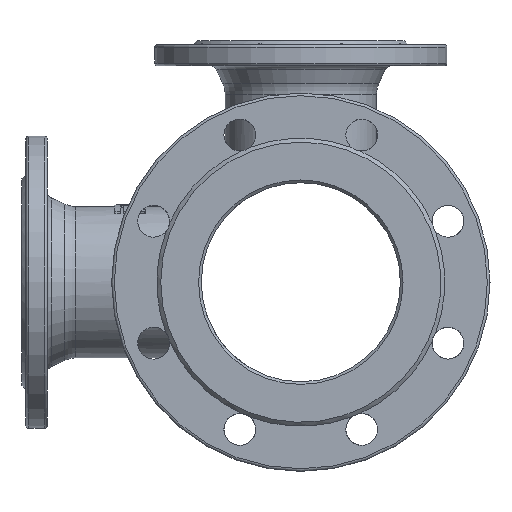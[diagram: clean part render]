
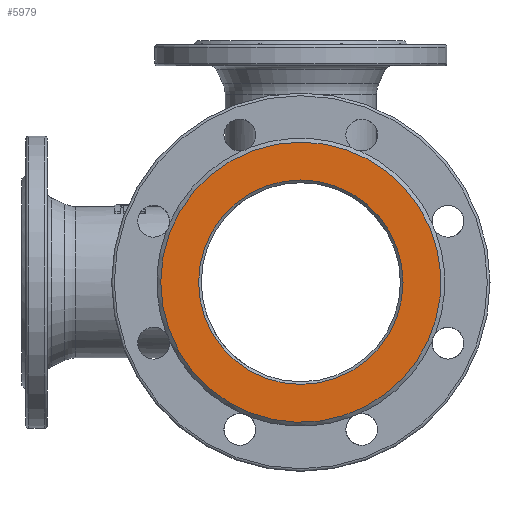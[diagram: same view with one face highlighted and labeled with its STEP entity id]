
A CAD part, left-side view. The second image highlights one B-rep face of the part: STEP entity #5979.
In plain terms, the highlighted planar face has unit normal (-1, 0, 0).
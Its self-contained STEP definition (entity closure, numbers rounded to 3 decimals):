
#728 = AXIS2_PLACEMENT_3D ( 'NONE', #3998, #3999, #4000 ) ;
#3998 = CARTESIAN_POINT ( 'NONE',  ( -220., 0., 0. ) ) ;
#3999 = DIRECTION ( 'NONE',  ( -1., 0., 0. ) ) ;
#4000 = DIRECTION ( 'NONE',  ( 0., 0., 1. ) ) ;
#4256 = CARTESIAN_POINT ( 'NONE',  ( -220., 0., -77. ) ) ;
#4265 = CARTESIAN_POINT ( 'NONE',  ( -220., 0., 105.5 ) ) ;
#4352 = ORIENTED_EDGE ( 'NONE', *, *, #5219, .T. ) ;
#4353 = ORIENTED_EDGE ( 'NONE', *, *, #9135, .T. ) ;
#4497 = EDGE_LOOP ( 'NONE', ( #4352 ) ) ;
#4518 = EDGE_LOOP ( 'NONE', ( #4353 ) ) ;
#4816 = CIRCLE ( 'NONE', #8704, 77. ) ;
#5219 = EDGE_CURVE ( 'NONE', #5876, #5876, #4816, .T. ) ;
#5283 = AXIS2_PLACEMENT_3D ( 'NONE', #7216, #7219, #7220 ) ;
#5506 = FACE_BOUND ( 'NONE', #4497, .T. ) ;
#5516 = FACE_OUTER_BOUND ( 'NONE', #4518, .T. ) ;
#5792 = CIRCLE ( 'NONE', #728, 105.5 ) ;
#5876 = VERTEX_POINT ( 'NONE', #4256 ) ;
#5885 = VERTEX_POINT ( 'NONE', #4265 ) ;
#5979 = ADVANCED_FACE ( 'NONE', ( #5506, #5516 ), #7217, .F. ) ;
#7216 = CARTESIAN_POINT ( 'NONE',  ( -220., 75., 0. ) ) ;
#7217 = PLANE ( 'NONE',  #5283 ) ;
#7219 = DIRECTION ( 'NONE',  ( 1., 0., 0. ) ) ;
#7220 = DIRECTION ( 'NONE',  ( 0., 0., -1. ) ) ;
#8523 = CARTESIAN_POINT ( 'NONE',  ( -220., 0., 0. ) ) ;
#8524 = DIRECTION ( 'NONE',  ( 1., 0., 0. ) ) ;
#8525 = DIRECTION ( 'NONE',  ( 0., 0., -1. ) ) ;
#8704 = AXIS2_PLACEMENT_3D ( 'NONE', #8523, #8524, #8525 ) ;
#9135 = EDGE_CURVE ( 'NONE', #5885, #5885, #5792, .T. ) ;
